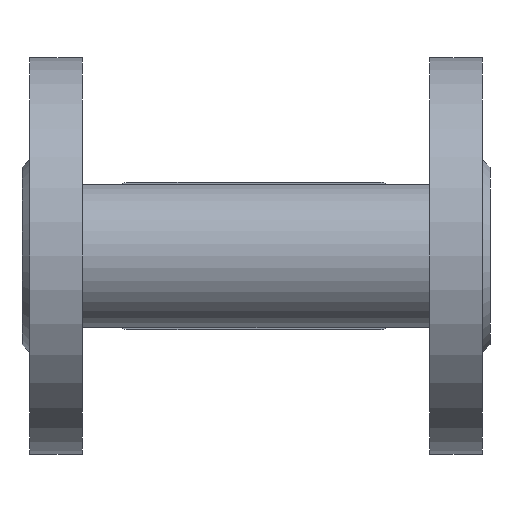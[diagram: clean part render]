
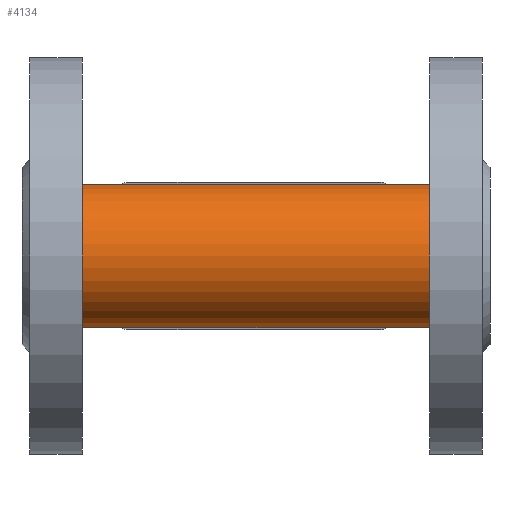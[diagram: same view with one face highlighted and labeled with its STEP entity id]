
A CAD part, front view. The second image highlights one B-rep face of the part: STEP entity #4134.
In plain terms, the highlighted cylindrical face has radius 19 mm (diameter 38 mm), a full revolution.
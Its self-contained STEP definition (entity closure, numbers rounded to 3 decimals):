
#1223=ELLIPSE('',#30045,26.87,19.);
#1224=ELLIPSE('',#30046,26.87,19.);
#1225=ELLIPSE('',#30047,26.87,19.);
#1226=ELLIPSE('',#30048,26.87,19.);
#1237=CYLINDRICAL_SURFACE('',#30051,19.);
#2634=FACE_BOUND('',#8094,.T.);
#2635=FACE_BOUND('',#8095,.T.);
#2636=FACE_BOUND('',#8096,.T.);
#4134=ADVANCED_FACE('',(#2634,#2635,#2636),#1237,.T.);
#8094=EDGE_LOOP('',(#11999,#12000,#12001,#12002,#12003,#12004));
#8095=EDGE_LOOP('',(#12005));
#8096=EDGE_LOOP('',(#12006));
#10770=CIRCLE('',#30049,19.);
#10771=CIRCLE('',#30050,19.);
#11999=ORIENTED_EDGE('',*,*,#22314,.T.);
#12000=ORIENTED_EDGE('',*,*,#22315,.T.);
#12001=ORIENTED_EDGE('',*,*,#22316,.T.);
#12002=ORIENTED_EDGE('',*,*,#22317,.T.);
#12003=ORIENTED_EDGE('',*,*,#22318,.T.);
#12004=ORIENTED_EDGE('',*,*,#22319,.T.);
#12005=ORIENTED_EDGE('',*,*,#22320,.F.);
#12006=ORIENTED_EDGE('',*,*,#22321,.F.);
#19611=VERTEX_POINT('',#40656);
#19612=VERTEX_POINT('',#40657);
#19613=VERTEX_POINT('',#40659);
#19614=VERTEX_POINT('',#40661);
#19615=VERTEX_POINT('',#40663);
#19616=VERTEX_POINT('',#40665);
#19617=VERTEX_POINT('',#40668);
#19618=VERTEX_POINT('',#40670);
#22314=EDGE_CURVE('',#19611,#19612,#1223,.T.);
#22315=EDGE_CURVE('',#19612,#19613,#1224,.T.);
#22316=EDGE_CURVE('',#19613,#19614,#26117,.T.);
#22317=EDGE_CURVE('',#19614,#19615,#1225,.T.);
#22318=EDGE_CURVE('',#19615,#19616,#1226,.T.);
#22319=EDGE_CURVE('',#19616,#19611,#26118,.T.);
#22320=EDGE_CURVE('',#19617,#19617,#10770,.T.);
#22321=EDGE_CURVE('',#19618,#19618,#10771,.T.);
#26117=LINE('',#40660,#27959);
#26118=LINE('',#40666,#27960);
#27959=VECTOR('',#32901,1.);
#27960=VECTOR('',#32906,1.);
#30045=AXIS2_PLACEMENT_3D('',#40655,#32897,#32898);
#30046=AXIS2_PLACEMENT_3D('',#40658,#32899,#32900);
#30047=AXIS2_PLACEMENT_3D('',#40662,#32902,#32903);
#30048=AXIS2_PLACEMENT_3D('',#40664,#32904,#32905);
#30049=AXIS2_PLACEMENT_3D('',#40667,#32907,#32908);
#30050=AXIS2_PLACEMENT_3D('',#40669,#32909,#32910);
#30051=AXIS2_PLACEMENT_3D('',#40671,#32911,#32912);
#32897=DIRECTION('',(-0.707,-0.707,0.));
#32898=DIRECTION('',(-0.707,0.707,0.));
#32899=DIRECTION('',(-0.707,-0.707,0.));
#32900=DIRECTION('',(-0.707,0.707,0.));
#32901=DIRECTION('',(1.,0.,0.));
#32902=DIRECTION('',(0.707,-0.707,0.));
#32903=DIRECTION('',(-0.707,-0.707,0.));
#32904=DIRECTION('',(0.707,-0.707,0.));
#32905=DIRECTION('',(-0.707,-0.707,0.));
#32906=DIRECTION('',(-1.,0.,0.));
#32907=DIRECTION('',(1.,0.,0.));
#32908=DIRECTION('',(0.,0.,1.));
#32909=DIRECTION('',(-1.,0.,0.));
#32910=DIRECTION('',(0.,0.,-1.));
#32911=DIRECTION('',(-1.,0.,0.));
#32912=DIRECTION('',(0.,0.,1.));
#40655=CARTESIAN_POINT('',(35.,-12.49,780.5));
#40656=CARTESIAN_POINT('',(20.,2.51,792.162));
#40657=CARTESIAN_POINT('',(16.,6.51,780.5));
#40658=CARTESIAN_POINT('',(35.,-12.49,780.5));
#40659=CARTESIAN_POINT('',(20.,2.51,768.838));
#40660=CARTESIAN_POINT('',(76.,2.51,768.838));
#40661=CARTESIAN_POINT('',(70.,2.51,768.838));
#40662=CARTESIAN_POINT('',(55.,-12.49,780.5));
#40663=CARTESIAN_POINT('',(74.,6.51,780.5));
#40664=CARTESIAN_POINT('',(55.,-12.49,780.5));
#40665=CARTESIAN_POINT('',(70.,2.51,792.162));
#40666=CARTESIAN_POINT('',(76.,2.51,792.162));
#40667=CARTESIAN_POINT('',(93.,-12.49,780.5));
#40668=CARTESIAN_POINT('',(93.,-12.49,799.5));
#40669=CARTESIAN_POINT('',(-3.,-12.49,780.5));
#40670=CARTESIAN_POINT('',(-3.,-12.49,761.5));
#40671=CARTESIAN_POINT('',(76.,-12.49,780.5));
